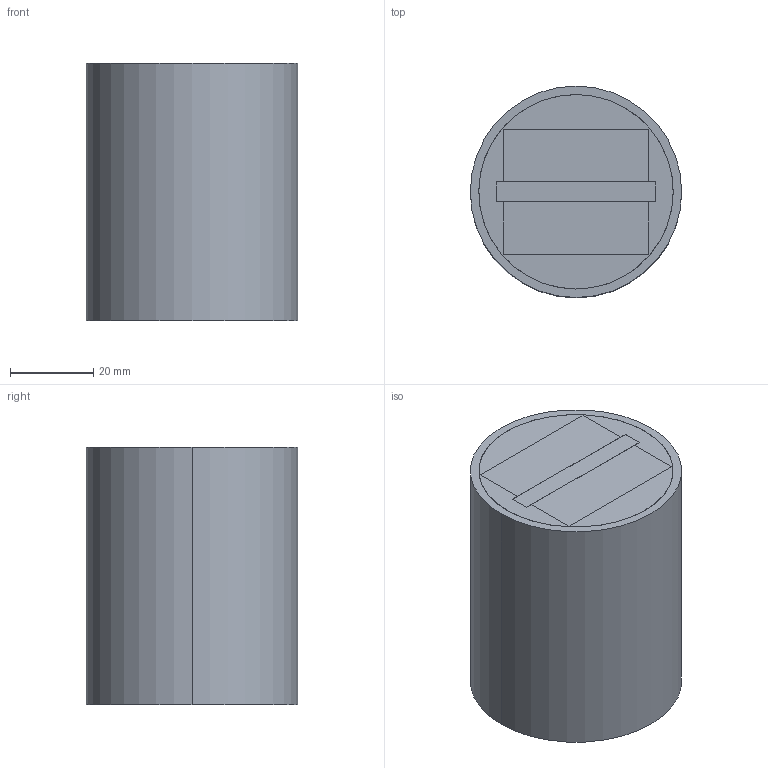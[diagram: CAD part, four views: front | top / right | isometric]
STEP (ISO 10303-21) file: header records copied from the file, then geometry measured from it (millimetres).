
FILE_DESCRIPTION (( 'STEP AP203' ), '1' );
FILE_NAME ('NT2000.STEP', '2018-07-09T14:37:21', ( '' ), ( '' ), 'SwSTEP 2.0', 'SolidWorks 2015', '' );
FILE_SCHEMA (( 'CONFIG_CONTROL_DESIGN' ));
Length unit declared in the file: inch
Products named in the file (1): NT2000
Bounding box: 50.8 x 50.8 x 61.93 mm (x, y, z)
Volume: 123884.7 mm3; surface area: 54552.2 mm2
Topology: 6 solids, 6 shells, 67 faces, 144 edges, 96 vertices
Faces by surface type: plane 47, cylinder 20
Entity records: 1895 total; most frequent: DIRECTION 320, CARTESIAN_POINT 308, ORIENTED_EDGE 288, EDGE_CURVE 144, AXIS2_PLACEMENT_3D 108, LINE 104, VECTOR 104, VERTEX_POINT 96
